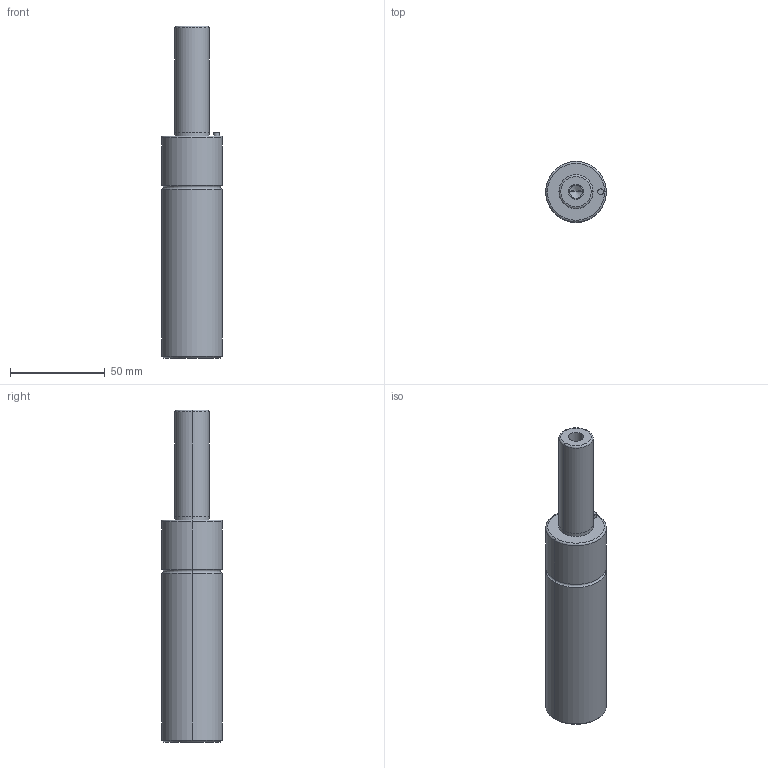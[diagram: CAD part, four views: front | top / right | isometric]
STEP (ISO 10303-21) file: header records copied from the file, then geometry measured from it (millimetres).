
FILE_DESCRIPTION(/* description */ (''),/* implementation_level */ '2;1');
FILE_NAME(/* name */ '3d_gsm32-56_03920_r00.stp',/* time_stamp */ '2011-01-10T14:15:16+09:00',/* author */ ('MISUMI'),/* organization */ (''),/* preprocessor_version */ 'ST-DEVELOPER v11',/* originating_system */ 'UGS - NX 5.0',/* authorisation */ '');
FILE_SCHEMA (('CONFIG_CONTROL_DESIGN'));
Length unit declared in the file: millimetre
Products named in the file (1): 3d_gsm32-56_03920_r00
Bounding box: 32 x 32 x 175 mm (x, y, z)
Volume: 107226.9 mm3; surface area: 17507.9 mm2
Topology: 1 solids, 1 shells, 50 faces, 106 edges, 60 vertices
Faces by surface type: cylinder 26, cone 10, plane 8, torus 6
Entity records: 1382 total; most frequent: DIRECTION 262, CARTESIAN_POINT 209, ORIENTED_EDGE 196, AXIS2_PLACEMENT_3D 113, EDGE_CURVE 98, CIRCLE 62, EDGE_LOOP 60, VERTEX_POINT 60
